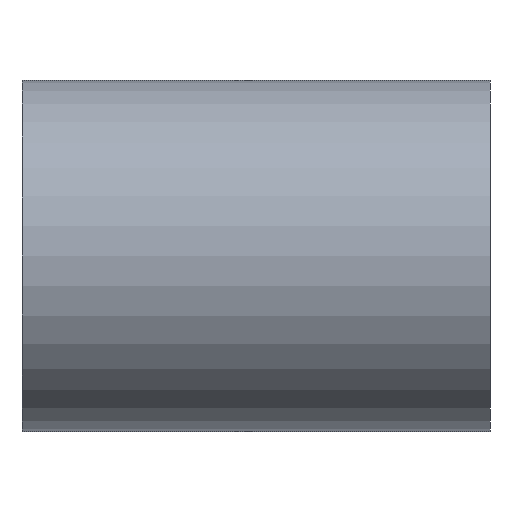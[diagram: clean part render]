
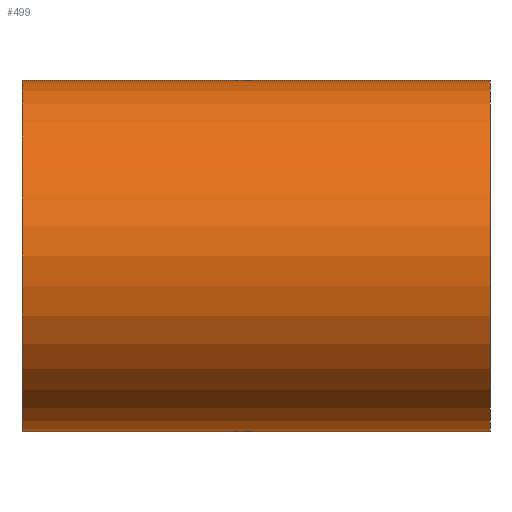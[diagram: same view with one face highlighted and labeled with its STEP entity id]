
A CAD part, front view. The second image highlights one B-rep face of the part: STEP entity #499.
In plain terms, the highlighted cylindrical face has radius 7.5 mm (diameter 15 mm), a partial arc.
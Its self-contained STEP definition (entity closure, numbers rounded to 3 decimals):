
#2 = DIRECTION ( 'NONE',  ( -1., 0., 0. ) ) ;
#5 = DIRECTION ( 'NONE',  ( 0., 0., 1. ) ) ;
#12 = CARTESIAN_POINT ( 'NONE',  ( -10., 0., 7.5 ) ) ;
#36 = AXIS2_PLACEMENT_3D ( 'NONE', #847, #157, #560 ) ;
#38 = LINE ( 'NONE', #733, #452 ) ;
#50 = VERTEX_POINT ( 'NONE', #12 ) ;
#64 = DIRECTION ( 'NONE',  ( -1., 0., 0. ) ) ;
#70 = ORIENTED_EDGE ( 'NONE', *, *, #399, .F. ) ;
#118 = ORIENTED_EDGE ( 'NONE', *, *, #666, .T. ) ;
#126 = DIRECTION ( 'NONE',  ( 0., 0., 1. ) ) ;
#157 = DIRECTION ( 'NONE',  ( -1., 0., 0. ) ) ;
#282 = CARTESIAN_POINT ( 'NONE',  ( -10., 0., -7.5 ) ) ;
#367 = CIRCLE ( 'NONE', #661, 7.5 ) ;
#387 = VERTEX_POINT ( 'NONE', #821 ) ;
#399 = EDGE_CURVE ( 'NONE', #446, #738, #615, .T. ) ;
#403 = AXIS2_PLACEMENT_3D ( 'NONE', #746, #64, #5 ) ;
#446 = VERTEX_POINT ( 'NONE', #551 ) ;
#448 = DIRECTION ( 'NONE',  ( -1., 0., 0. ) ) ;
#452 = VECTOR ( 'NONE', #448, 1000. ) ;
#463 = EDGE_CURVE ( 'NONE', #738, #50, #479, .T. ) ;
#479 = CIRCLE ( 'NONE', #403, 7.5 ) ;
#499 = ADVANCED_FACE ( 'NONE', ( #554 ), #836, .T. ) ;
#513 = ORIENTED_EDGE ( 'NONE', *, *, #808, .T. ) ;
#541 = CARTESIAN_POINT ( 'NONE',  ( 10., 0., 0. ) ) ;
#551 = CARTESIAN_POINT ( 'NONE',  ( 10., 0., -7.5 ) ) ;
#554 = FACE_OUTER_BOUND ( 'NONE', #723, .T. ) ;
#560 = DIRECTION ( 'NONE',  ( 0., 0., 1. ) ) ;
#615 = LINE ( 'NONE', #683, #851 ) ;
#661 = AXIS2_PLACEMENT_3D ( 'NONE', #541, #2, #126 ) ;
#666 = EDGE_CURVE ( 'NONE', #387, #50, #38, .T. ) ;
#683 = CARTESIAN_POINT ( 'NONE',  ( 0., 0., -7.5 ) ) ;
#723 = EDGE_LOOP ( 'NONE', ( #70, #513, #118, #846 ) ) ;
#733 = CARTESIAN_POINT ( 'NONE',  ( 0., 0., 7.5 ) ) ;
#738 = VERTEX_POINT ( 'NONE', #282 ) ;
#746 = CARTESIAN_POINT ( 'NONE',  ( -10., 0., 0. ) ) ;
#753 = DIRECTION ( 'NONE',  ( -1., 0., 0. ) ) ;
#808 = EDGE_CURVE ( 'NONE', #446, #387, #367, .T. ) ;
#821 = CARTESIAN_POINT ( 'NONE',  ( 10., 0., 7.5 ) ) ;
#836 = CYLINDRICAL_SURFACE ( 'NONE', #36, 7.5 ) ;
#846 = ORIENTED_EDGE ( 'NONE', *, *, #463, .F. ) ;
#847 = CARTESIAN_POINT ( 'NONE',  ( 0., 0., 0. ) ) ;
#851 = VECTOR ( 'NONE', #753, 1000. ) ;
